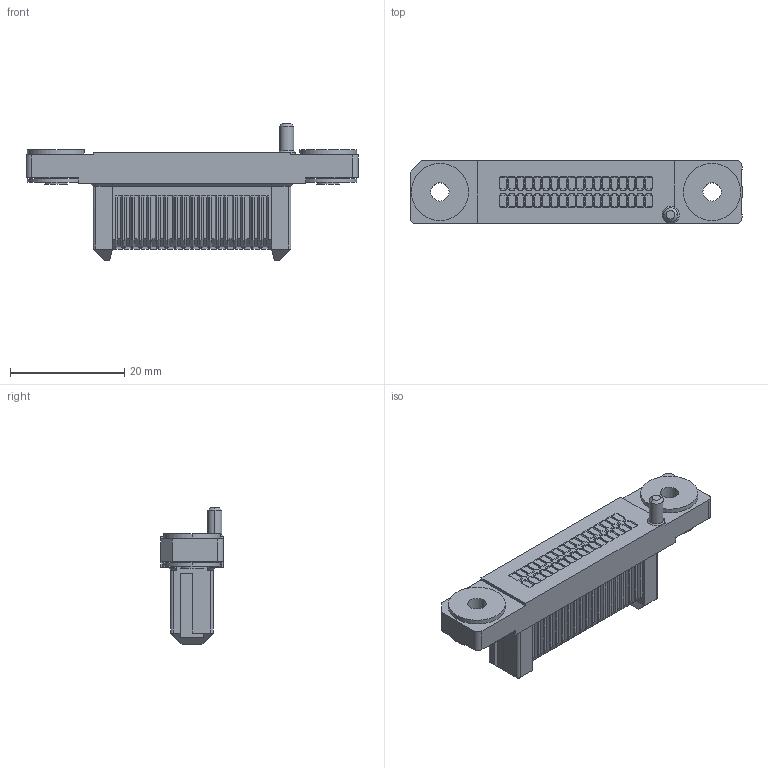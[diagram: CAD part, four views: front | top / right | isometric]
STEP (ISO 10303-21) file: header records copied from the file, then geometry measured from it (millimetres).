
FILE_DESCRIPTION(('CoCreate Modeling STEP Export'),'2;1');
FILE_NAME('P3C789_FAS01-036.stp','2017-07-28T14:53:26',(''),(''),'CoCreate Modeling STEP processor for AP214 (Solid Model)','CoCreate Modeling 17.0B 09-Oct-2010 (C) Parametric Technology GmbH','');
FILE_SCHEMA(('AUTOMOTIVE_DESIGN { 1 0 10303 214 1 1 1 1 }'));
Length unit declared in the file: millimetre
Products named in the file (2): FAS01-036
Assembly tree (1 placements, depth 2):
  FAS01-036
    FAS01-036
Bounding box: 58.2 x 11 x 24 mm (x, y, z)
Volume: 5766.2 mm3; surface area: 3879.5 mm2
Topology: 1 solids, 1 shells, 1032 faces, 2640 edges, 1656 vertices
Faces by surface type: plane 990, cylinder 34, cone 8
Entity records: 30134 total; most frequent: CARTESIAN_POINT 5300, ORIENTED_EDGE 5280, DIRECTION 4731, EDGE_CURVE 2640, VECTOR 2557, LINE 2557, VERTEX_POINT 1656, AXIS2_PLACEMENT_3D 1087
